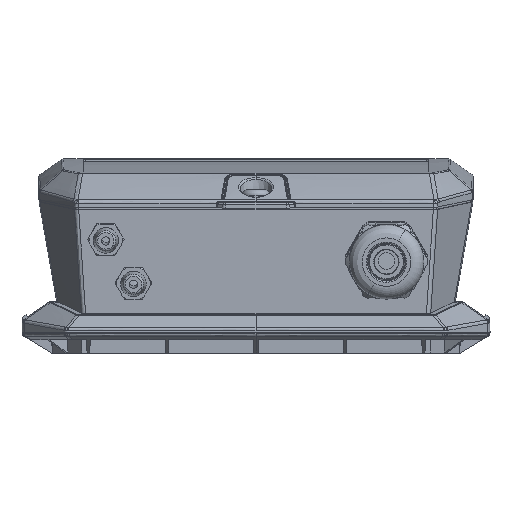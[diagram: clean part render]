
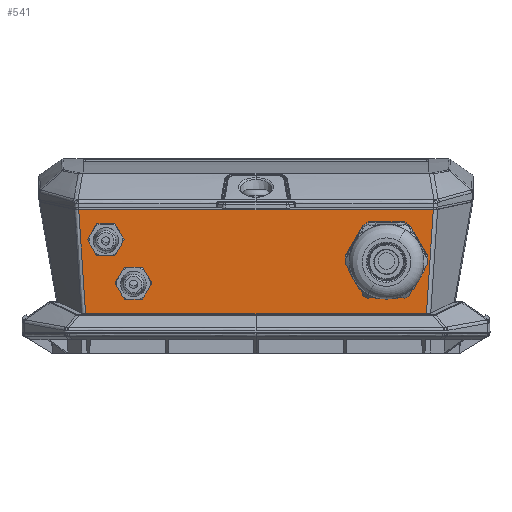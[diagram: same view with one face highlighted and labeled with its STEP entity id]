
A CAD part, front view. The second image highlights one B-rep face of the part: STEP entity #541.
In plain terms, the highlighted planar face has unit normal (0, -1, -0.026).
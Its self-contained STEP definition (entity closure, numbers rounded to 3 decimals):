
#541 = ADVANCED_FACE ( 'NONE', ( #136856, #49507, #25661, #61716 ), #93572, .F. ) ;
#5423 = DIRECTION ( 'NONE',  ( 0., -1., -0.026 ) ) ;
#5886 = ORIENTED_EDGE ( 'NONE', *, *, #124223, .F. ) ;
#6120 = B_SPLINE_CURVE_WITH_KNOTS ( 'NONE', 3,
 ( #19130, #106572, #118106, #126806, #50984, #85649, #107275 ),
 .UNSPECIFIED., .F., .F.,
 ( 4, 3, 4 ),
 ( 0., 0.014, 0.027 ),
 .UNSPECIFIED. ) ;
#6839 = CARTESIAN_POINT ( 'NONE',  ( 0., -84.9, -8.5 ) ) ;
#7917 = AXIS2_PLACEMENT_3D ( 'NONE', #115876, #5423, #50898 ) ;
#8821 = DIRECTION ( 'NONE',  ( 0., 0.026, -1. ) ) ;
#9882 = CARTESIAN_POINT ( 'NONE',  ( 0., -84.183, -35.879 ) ) ;
#10221 = CARTESIAN_POINT ( 'NONE',  ( -31., -84.4, -27.597 ) ) ;
#12275 = ORIENTED_EDGE ( 'NONE', *, *, #72156, .F. ) ;
#13829 = DIRECTION ( 'NONE',  ( 0., -1., -0.026 ) ) ;
#14452 = VERTEX_POINT ( 'NONE', #44514 ) ;
#15653 = EDGE_CURVE ( 'NONE', #63138, #67922, #62623, .T. ) ;
#19130 = CARTESIAN_POINT ( 'NONE',  ( 44.862, -84.884, -9.102 ) ) ;
#20328 = DIRECTION ( 'NONE',  ( 0., -1., -0.026 ) ) ;
#23358 = ORIENTED_EDGE ( 'NONE', *, *, #88838, .F. ) ;
#25661 = FACE_OUTER_BOUND ( 'NONE', #25980, .T. ) ;
#25980 = EDGE_LOOP ( 'NONE', ( #115784, #40071, #86447, #49267, #5886, #105394 ) ) ;
#26718 = DIRECTION ( 'NONE',  ( 1., 0., 0. ) ) ;
#27027 = CARTESIAN_POINT ( 'NONE',  ( 33., -84.556, -21.624 ) ) ;
#27737 = CARTESIAN_POINT ( 'NONE',  ( 43.075, -84.184, -35.836 ) ) ;
#27933 = ORIENTED_EDGE ( 'NONE', *, *, #128441, .F. ) ;
#30270 = B_SPLINE_CURVE_WITH_KNOTS ( 'NONE', 3,
 ( #69677, #113668, #137456, #125917 ),
 .UNSPECIFIED., .F., .F.,
 ( 4, 4 ),
 ( 0., 0. ),
 .UNSPECIFIED. ) ;
#30574 = CARTESIAN_POINT ( 'NONE',  ( -43.075, -84.184, -35.836 ) ) ;
#30751 = CARTESIAN_POINT ( 'NONE',  ( -31., -84.455, -25.498 ) ) ;
#33023 = EDGE_LOOP ( 'NONE', ( #70408, #27933 ) ) ;
#34232 = B_SPLINE_CURVE_WITH_KNOTS ( 'NONE', 3,
 ( #100996, #140935, #90192, #35261, #123343, #68502, #82923 ),
 .UNSPECIFIED., .F., .F.,
 ( 4, 3, 4 ),
 ( 0., 0.014, 0.027 ),
 .UNSPECIFIED. ) ;
#34574 = DIRECTION ( 'NONE',  ( 0., 0.026, -1. ) ) ;
#35166 = EDGE_CURVE ( 'NONE', #116847, #75937, #139803, .T. ) ;
#35261 = CARTESIAN_POINT ( 'NONE',  ( -43.954, -84.529, -22.675 ) ) ;
#35306 = AXIS2_PLACEMENT_3D ( 'NONE', #6839, #37227, #103659 ) ;
#36222 = CIRCLE ( 'NONE', #43147, 2.1 ) ;
#37227 = DIRECTION ( 'NONE',  ( 0., 1., 0.026 ) ) ;
#40071 = ORIENTED_EDGE ( 'NONE', *, *, #46685, .T. ) ;
#40389 = VECTOR ( 'NONE', #26718, 1000. ) ;
#43147 = AXIS2_PLACEMENT_3D ( 'NONE', #99624, #112539, #34574 ) ;
#43807 = CARTESIAN_POINT ( 'NONE',  ( 0., -84.884, -9.102 ) ) ;
#44510 = VERTEX_POINT ( 'NONE', #112967 ) ;
#44514 = CARTESIAN_POINT ( 'NONE',  ( 33., -84.367, -28.872 ) ) ;
#44906 = CARTESIAN_POINT ( 'NONE',  ( 33., -84.556, -21.624 ) ) ;
#45032 = EDGE_CURVE ( 'NONE', #116338, #67922, #85707, .T. ) ;
#46685 = EDGE_CURVE ( 'NONE', #132571, #63138, #30270, .T. ) ;
#48601 = VERTEX_POINT ( 'NONE', #97403 ) ;
#48798 = VERTEX_POINT ( 'NONE', #98651 ) ;
#49267 = ORIENTED_EDGE ( 'NONE', *, *, #45032, .F. ) ;
#49507 = FACE_BOUND ( 'NONE', #103024, .T. ) ;
#50424 = EDGE_CURVE ( 'NONE', #85381, #48601, #36222, .T. ) ;
#50898 = DIRECTION ( 'NONE',  ( 0., 0.026, -1. ) ) ;
#50984 = CARTESIAN_POINT ( 'NONE',  ( 43.66, -84.414, -27.062 ) ) ;
#55317 = EDGE_LOOP ( 'NONE', ( #68270, #23358 ) ) ;
#61716 = FACE_BOUND ( 'NONE', #33023, .T. ) ;
#62623 = LINE ( 'NONE', #9882, #40389 ) ;
#63138 = VERTEX_POINT ( 'NONE', #78582 ) ;
#65596 = EDGE_CURVE ( 'NONE', #114034, #132571, #34232, .T. ) ;
#65753 = CARTESIAN_POINT ( 'NONE',  ( 42.769, -84.183, -35.879 ) ) ;
#66420 = CARTESIAN_POINT ( 'NONE',  ( 42.769, -84.183, -35.879 ) ) ;
#67922 = VERTEX_POINT ( 'NONE', #66420 ) ;
#68270 = ORIENTED_EDGE ( 'NONE', *, *, #50424, .F. ) ;
#68502 = CARTESIAN_POINT ( 'NONE',  ( -43.367, -84.299, -31.449 ) ) ;
#69677 = CARTESIAN_POINT ( 'NONE',  ( -43.075, -84.184, -35.836 ) ) ;
#70408 = ORIENTED_EDGE ( 'NONE', *, *, #112650, .F. ) ;
#71138 = DIRECTION ( 'NONE',  ( 0., -1., -0.026 ) ) ;
#72156 = EDGE_CURVE ( 'NONE', #75937, #116847, #94426, .T. ) ;
#74616 = EDGE_CURVE ( 'NONE', #44510, #114034, #142720, .T. ) ;
#75937 = VERTEX_POINT ( 'NONE', #137888 ) ;
#78582 = CARTESIAN_POINT ( 'NONE',  ( -42.769, -84.183, -35.879 ) ) ;
#79131 = DIRECTION ( 'NONE',  ( 0., 0.026, -1. ) ) ;
#82923 = CARTESIAN_POINT ( 'NONE',  ( -43.075, -84.184, -35.836 ) ) ;
#85381 = VERTEX_POINT ( 'NONE', #103881 ) ;
#85649 = CARTESIAN_POINT ( 'NONE',  ( 43.367, -84.299, -31.449 ) ) ;
#85707 = B_SPLINE_CURVE_WITH_KNOTS ( 'NONE', 3,
 ( #124169, #112622, #88185, #65753 ),
 .UNSPECIFIED., .F., .F.,
 ( 4, 4 ),
 ( 0., 0. ),
 .UNSPECIFIED. ) ;
#86447 = ORIENTED_EDGE ( 'NONE', *, *, #15653, .T. ) ;
#87900 = DIRECTION ( 'NONE',  ( -1., 0., 0. ) ) ;
#88185 = CARTESIAN_POINT ( 'NONE',  ( 42.873, -84.183, -35.879 ) ) ;
#88838 = EDGE_CURVE ( 'NONE', #48601, #85381, #125534, .T. ) ;
#90192 = CARTESIAN_POINT ( 'NONE',  ( -44.256, -84.647, -18.15 ) ) ;
#92551 = CIRCLE ( 'NONE', #97177, 7.25 ) ;
#93572 = PLANE ( 'NONE',  #35306 ) ;
#94426 = CIRCLE ( 'NONE', #99043, 2.1 ) ;
#95235 = CARTESIAN_POINT ( 'NONE',  ( -44.862, -84.884, -9.102 ) ) ;
#97177 = AXIS2_PLACEMENT_3D ( 'NONE', #27027, #71138, #79131 ) ;
#97403 = CARTESIAN_POINT ( 'NONE',  ( -38., -84.743, -14.505 ) ) ;
#97975 = AXIS2_PLACEMENT_3D ( 'NONE', #110661, #13829, #101954 ) ;
#98651 = CARTESIAN_POINT ( 'NONE',  ( 33., -84.746, -14.377 ) ) ;
#99043 = AXIS2_PLACEMENT_3D ( 'NONE', #10221, #120004, #131548 ) ;
#99624 = CARTESIAN_POINT ( 'NONE',  ( -38., -84.688, -16.604 ) ) ;
#100996 = CARTESIAN_POINT ( 'NONE',  ( -44.862, -84.884, -9.102 ) ) ;
#101954 = DIRECTION ( 'NONE',  ( 0., 0.026, -1. ) ) ;
#103024 = EDGE_LOOP ( 'NONE', ( #12275, #129479 ) ) ;
#103659 = DIRECTION ( 'NONE',  ( 1., 0., 0. ) ) ;
#103881 = CARTESIAN_POINT ( 'NONE',  ( -38., -84.633, -18.704 ) ) ;
#105394 = ORIENTED_EDGE ( 'NONE', *, *, #74616, .T. ) ;
#106219 = CIRCLE ( 'NONE', #126929, 7.25 ) ;
#106572 = CARTESIAN_POINT ( 'NONE',  ( 44.559, -84.766, -13.626 ) ) ;
#107275 = CARTESIAN_POINT ( 'NONE',  ( 43.075, -84.184, -35.836 ) ) ;
#110661 = CARTESIAN_POINT ( 'NONE',  ( -31., -84.4, -27.597 ) ) ;
#112539 = DIRECTION ( 'NONE',  ( 0., -1., -0.026 ) ) ;
#112622 = CARTESIAN_POINT ( 'NONE',  ( 42.974, -84.183, -35.863 ) ) ;
#112650 = EDGE_CURVE ( 'NONE', #14452, #48798, #92551, .T. ) ;
#112967 = CARTESIAN_POINT ( 'NONE',  ( 44.862, -84.884, -9.102 ) ) ;
#113668 = CARTESIAN_POINT ( 'NONE',  ( -42.974, -84.183, -35.863 ) ) ;
#114034 = VERTEX_POINT ( 'NONE', #95235 ) ;
#115784 = ORIENTED_EDGE ( 'NONE', *, *, #65596, .T. ) ;
#115876 = CARTESIAN_POINT ( 'NONE',  ( -38., -84.688, -16.604 ) ) ;
#116338 = VERTEX_POINT ( 'NONE', #27737 ) ;
#116847 = VERTEX_POINT ( 'NONE', #30751 ) ;
#118106 = CARTESIAN_POINT ( 'NONE',  ( 44.256, -84.647, -18.15 ) ) ;
#120004 = DIRECTION ( 'NONE',  ( 0., -1., -0.026 ) ) ;
#123343 = CARTESIAN_POINT ( 'NONE',  ( -43.66, -84.414, -27.062 ) ) ;
#124169 = CARTESIAN_POINT ( 'NONE',  ( 43.075, -84.184, -35.836 ) ) ;
#124223 = EDGE_CURVE ( 'NONE', #44510, #116338, #6120, .T. ) ;
#125534 = CIRCLE ( 'NONE', #7917, 2.1 ) ;
#125917 = CARTESIAN_POINT ( 'NONE',  ( -42.769, -84.183, -35.879 ) ) ;
#126806 = CARTESIAN_POINT ( 'NONE',  ( 43.954, -84.529, -22.675 ) ) ;
#126929 = AXIS2_PLACEMENT_3D ( 'NONE', #44906, #20328, #8821 ) ;
#128441 = EDGE_CURVE ( 'NONE', #48798, #14452, #106219, .T. ) ;
#129479 = ORIENTED_EDGE ( 'NONE', *, *, #35166, .F. ) ;
#131548 = DIRECTION ( 'NONE',  ( 0., 0.026, -1. ) ) ;
#132571 = VERTEX_POINT ( 'NONE', #30574 ) ;
#136216 = VECTOR ( 'NONE', #87900, 1000. ) ;
#136856 = FACE_BOUND ( 'NONE', #55317, .T. ) ;
#137456 = CARTESIAN_POINT ( 'NONE',  ( -42.873, -84.183, -35.879 ) ) ;
#137888 = CARTESIAN_POINT ( 'NONE',  ( -31., -84.345, -29.696 ) ) ;
#139803 = CIRCLE ( 'NONE', #97975, 2.1 ) ;
#140935 = CARTESIAN_POINT ( 'NONE',  ( -44.559, -84.766, -13.626 ) ) ;
#142720 = LINE ( 'NONE', #43807, #136216 ) ;
